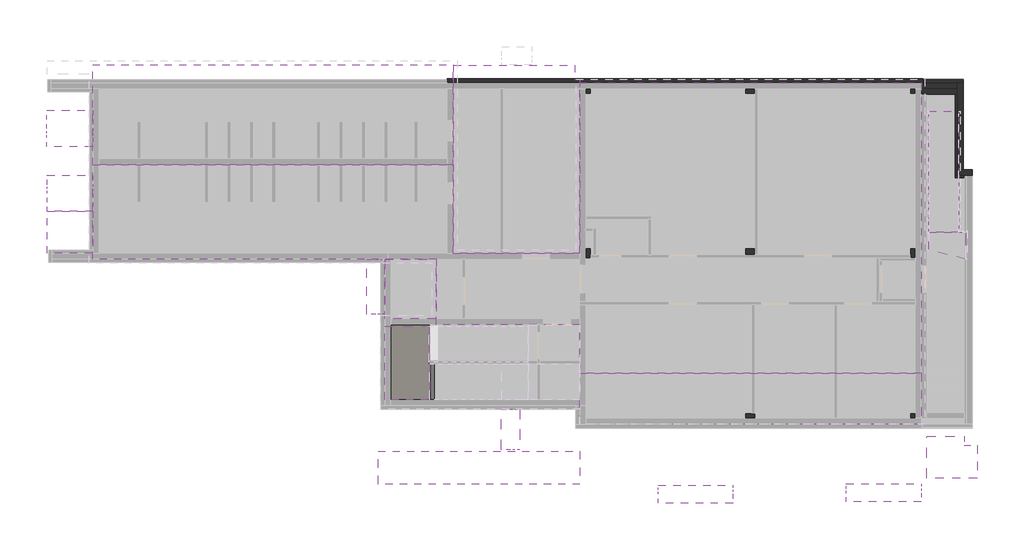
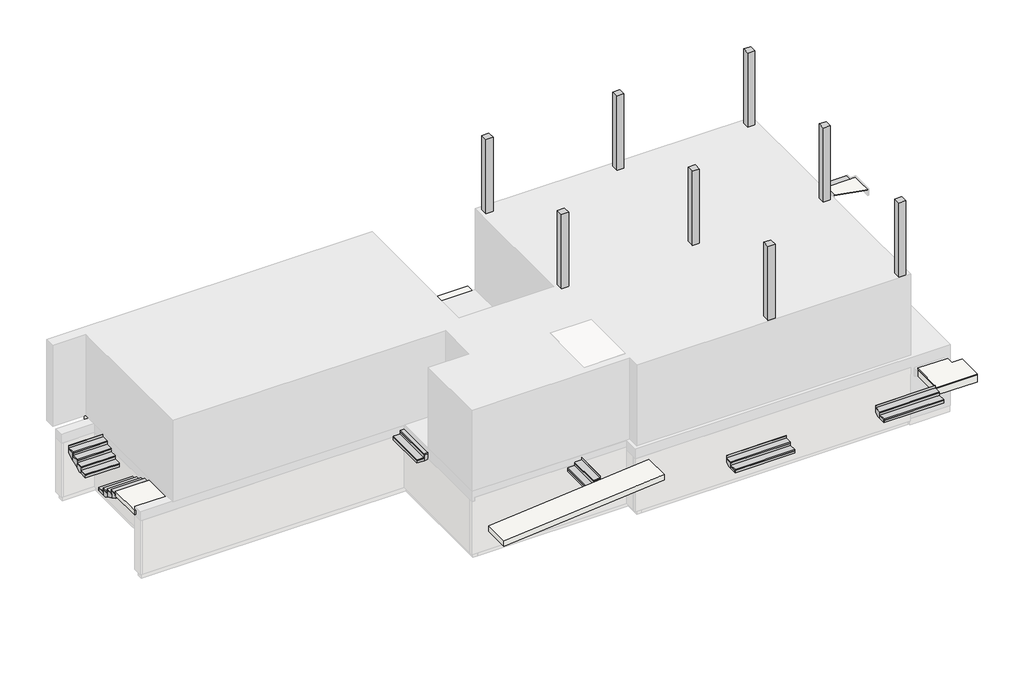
# One storey, part 2 of 3: 12 slabs, 9 columns, 8 stair flights, 8 walls.
"""IFC4 building model written with IfcOpenShell, lengths in millimetres."""

from ifc_helpers import new_model, si_unit, frame, origin, place, context, project, spatial, polyline, outline, extrude, faceted_brep, transform, mapped, element, save
from components import column_300x300_84cb1d97, slab_bca46094, stair_flight_92a90b22

model = new_model("IFC4")

# Units and contexts
model_context = context("Model", 3, world=origin())
ifc_project = project(units=[si_unit("LENGTHUNIT", "METRE", prefix="MILLI")], contexts=[model_context])

# Site, building, storey
site = spatial("IfcSite", under=ifc_project)
building = spatial("IfcBuilding", under=site)
storey = spatial("IfcBuildingStorey", under=building, Name="Этаж -1", Elevation=-2700.0)

# Columns
placement = place(None, origin())
column_300x300_shape = column_300x300_84cb1d97(model_context)
element("IfcColumn", 1, ObjectType="(CL)_Колонна _Прямоугольная : 300x300", at=placement, inside=storey, context=model_context, shape_type="MappedRepresentation", body=[
    mapped(column_300x300_shape, transform((16270.0, 10380.0, 0.0), x_axis=(1.0, 0.0, 0.0), y_axis=(0.0, 1.0, 0.0), z_axis=(0.0, 0.0, 1.0))),
])
element("IfcColumn", 2, ObjectType="(CL)_Колонна _Прямоугольная : 300x300", at=placement, inside=storey, context=model_context, shape_type="MappedRepresentation", body=[
    mapped(column_300x300_shape, transform((21769.9990554, 10380.0, 0.0), x_axis=(1.0, 0.0, 0.0), y_axis=(0.0, 1.0, 0.0), z_axis=(0.0, 0.0, 1.0))),
])
element("IfcColumn", 3, ObjectType="(CL)_Колонна _Прямоугольная : 300x300", at=placement, inside=storey, context=model_context, shape_type="MappedRepresentation", body=[
    mapped(column_300x300_shape, transform((27269.9990554, 10380.0, 0.0), x_axis=(1.0, 0.0, 0.0), y_axis=(0.0, 1.0, 0.0), z_axis=(0.0, 0.0, 1.0))),
])
element("IfcColumn", 4, ObjectType="(CL)_Колонна _Прямоугольная : 300x300", at=placement, inside=storey, context=model_context, shape_type="MappedRepresentation", body=[
    mapped(column_300x300_shape, transform((21769.9990554, 4880.0, 0.0), x_axis=(1.0, 0.0, 0.0), y_axis=(0.0, 1.0, 0.0), z_axis=(0.0, 0.0, 1.0))),
])
element("IfcColumn", 5, ObjectType="(CL)_Колонна _Прямоугольная : 300x300", at=placement, inside=storey, context=model_context, shape_type="MappedRepresentation", body=[
    mapped(column_300x300_shape, transform((16270.0, 4880.0, 0.0), x_axis=(1.0, 0.0, 0.0), y_axis=(0.0, 1.0, 0.0), z_axis=(0.0, 0.0, 1.0))),
])
element("IfcColumn", 6, ObjectType="(CL)_Колонна _Прямоугольная : 300x300", at=placement, inside=storey, context=model_context, shape_type="MappedRepresentation", body=[
    mapped(column_300x300_shape, transform((27269.9990554, -620.0, 0.0), x_axis=(1.0, 0.0, 0.0), y_axis=(0.0, 1.0, 0.0), z_axis=(0.0, 0.0, 1.0))),
])
element("IfcColumn", 7, ObjectType="(CL)_Колонна _Прямоугольная : 300x300", at=placement, inside=storey, context=model_context, shape_type="MappedRepresentation", body=[
    mapped(column_300x300_shape, transform((21769.9990554, -620.0, 0.0), x_axis=(1.0, 0.0, 0.0), y_axis=(0.0, 1.0, 0.0), z_axis=(0.0, 0.0, 1.0))),
])
element("IfcColumn", 8, ObjectType="(CL)_Колонна _Прямоугольная : 300x300", at=placement, inside=storey, context=model_context, shape_type="MappedRepresentation", body=[
    mapped(column_300x300_shape, transform((21769.9990554, -620.0, 0.0), x_axis=(1.0, 0.0, 0.0), y_axis=(0.0, 1.0, 0.0), z_axis=(0.0, 0.0, 1.0))),
])
element("IfcColumn", 9, ObjectType="(CL)_Колонна _Прямоугольная : 300x300", at=placement, inside=storey, context=model_context, shape_type="MappedRepresentation", body=[
    mapped(column_300x300_shape, transform((27269.9990554, 4880.0, 0.0), x_axis=(1.0, 0.0, 0.0), y_axis=(0.0, 1.0, 0.0), z_axis=(0.0, 0.0, 1.0))),
])

# Slabs
element("IfcSlab", 10, ObjectType="(Вн).(Тип1-340)", at=placement, inside=storey, context=model_context, shape_type="SweptSolid", body=[
    extrude(outline(polyline([(11650.0, 10380.0000008), (11650.0, 8035.0), (0.0, 8035.0), (0.0, 10380.0000008), (11650.0, 10380.0000008)])), frame((0.0, 0.0, -3040.0), z_axis=(0.0, 0.0, 1.0), x_axis=(1.0, 0.0, 0.0)), (0.0, 0.0, 1.0), 340.0),
    extrude(outline(polyline([(0.0, 4880.0), (0.0, 7835.0), (11650.0, 7835.0), (11650.0, 4880.0), (0.0, 4880.0)])), frame((0.0, 0.0, -3040.0), z_axis=(0.0, 0.0, 1.0), x_axis=(1.0, 0.0, 0.0)), (0.0, 0.0, 1.0), 340.0),
    extrude(outline(polyline([(9750.291724, 2500.0), (16070.0, 2500.0), (16070.0, 0.0), (9750.291724, 0.0), (9750.291724, 2500.0)])), frame((0.0, 0.0, -3040.0), z_axis=(0.0, 0.0, 1.0), x_axis=(1.0, 0.0, 0.0)), (0.0, 0.0, 1.0), 340.0),
    extrude(outline(polyline([(16270.0, 0.0), (16270.0, 4730.0), (16420.0, 4730.0), (16420.0, 5030.0), (16270.0, 5030.0), (16270.0, 10230.0), (16420.0, 10230.0), (16420.0, 10380.0000008), (21619.9990554, 10380.0000008), (21619.9990554, 10230.0), (21919.9990554, 10230.0), (21919.9990554, 10380.0000008), (27119.9990554, 10380.0000008), (27119.9990554, 10230.0), (27269.9990554, 10230.0), (27269.9990554, 5030.0), (27119.9990554, 5030.0), (27119.9990554, 4730.0), (27269.9990554, 4730.0), (27269.9990554, -470.0), (27119.9990554, -470.0), (27119.9990554, -620.0), (21919.9990554, -620.0), (21919.9990554, -470.0), (21619.9990554, -470.0), (21619.9990554, -620.0), (16270.0, -620.0), (16270.0, 0.0)])), frame((0.0, 0.0, -3040.0), z_axis=(0.0, 0.0, 1.0), x_axis=(1.0, 0.0, 0.0)), (0.0, 0.0, 1.0), 340.0),
    extrude(outline(polyline([(16070.0, 10380.0000008), (16070.0, 4880.0), (11850.0, 4880.0), (11850.0, 10380.0000008), (16070.0, 10380.0000008)])), frame((0.0, 0.0, -3040.0), z_axis=(0.0, 0.0, 1.0), x_axis=(1.0, 0.0, 0.0)), (0.0, 0.0, 1.0), 340.0),
    extrude(outline(polyline([(9750.291724, 4680.0), (16070.0, 4680.0), (16070.0, 2700.0), (9750.291724, 2700.0), (9750.291724, 4680.0)])), frame((0.0, 0.0, -3040.0), z_axis=(0.0, 0.0, 1.0), x_axis=(1.0, 0.0, 0.0)), (0.0, 0.0, 1.0), 340.0),
])
element("IfcSlab", 11, ObjectType="(Вн)_(ЖБ-200)", at=placement, inside=storey, context=model_context, shape_type="SweptSolid", body=[
    extrude(outline(polyline([(16070.0, 10580.0), (27467.9990554, 10580.0), (27467.9990554, 880.0), (16068.0, 880.0), (16068.0, 2500.2996937), (11270.0, 2500.2996937), (11270.0, 4680.0), (-202.0, 4680.0), (-202.0, 7835.0), (11850.0, 7835.0), (11850.0, 4880.0), (16070.0, 4880.0), (16070.0, 10580.0)])), frame((0.0, 0.0, -300.0), z_axis=(0.0, 0.0, 1.0), x_axis=(1.0, 0.0, 0.0)), (0.0, 0.0, 1.0), 200.0),
])
element("IfcSlab", 12, ObjectType="(Нр)_(ЖБ-200)", at=placement, inside=storey, context=model_context, shape_type="SweptSolid", body=[
    extrude(outline(polyline([(16070.0, 10692.0056997), (16070.0, 4882.0056355), (11850.0, 4882.0056355), (11850.0, 11172.0056355), (15907.8816544, 11172.0056355), (15907.8816544, 10692.0056997), (16070.0, 10692.0056997)])), frame((0.0, 0.0, -300.0), z_axis=(0.0, 0.0, 1.0), x_axis=(1.0, 0.0, 0.0)), (0.0, 0.0, 1.0), 200.0),
])
element("IfcSlab", 13, ObjectType="(Вн)_(ЖБ-300)", at=placement, inside=storey, context=model_context, shape_type="SweptSolid", body=[
    extrude(outline(polyline([(11850.0, 11190.0), (11850.0, 7835.0), (-202.0, 7835.0), (-202.0, 11190.0), (11850.0, 11190.0)])), frame((0.0, 0.0, -400.0), z_axis=(0.0, 0.0, 1.0), x_axis=(1.0, 0.0, 0.0)), (0.0, 0.0, 1.0), 300.0),
])
element("IfcSlab", 14, ObjectType="(Нр)_(ЖБ-300)", at=placement, inside=storey, context=model_context, shape_type="SweptSolid", body=[
    extrude(outline(polyline([(27469.9990278, 880.0), (27469.9990278, -820.0), (16070.0, -820.0), (16070.0, 880.0), (27469.9990278, 880.0)])), frame((0.0, 0.0, -400.0), z_axis=(0.0, 0.0, 1.0), x_axis=(1.0, 0.0, 0.0)), (0.0, 0.0, 1.0), 300.0),
])
element("IfcSlab", 15, ObjectType="(Нр)_(ЖБ-200)", at=placement, inside=storey, context=model_context, shape_type="SweptSolid", body=[
    extrude(outline(polyline([(9550.291724, 2700.0), (9550.291724, 4680.0), (11270.0, 4680.0), (11270.0, 2700.0), (9550.291724, 2700.0)])), frame((0.0, 0.0, -300.0), z_axis=(0.0, 0.0, 1.0), x_axis=(1.0, 0.0, 0.0)), (0.0, 0.0, 1.0), 200.0),
])
element("IfcSlab", 16, ObjectType="(Нр)_(ЖБ-200)", at=placement, inside=storey, context=model_context, shape_type="SweptSolid", body=[
    extrude(outline(polyline([(-1715.9332962, 6294.9949335), (-201.9999653, 6294.9949335), (-201.9999653, 4880.0), (-1715.9332962, 4880.0), (-1715.9332962, 6294.9949335)])), frame((0.0, 0.0, -300.0), z_axis=(0.0, 0.0, 1.0), x_axis=(1.0, 0.0, 0.0)), (0.0, 0.0, 1.0), 200.0),
])
element("IfcSlab", 17, ObjectType="Толщина: 300 мм", at=placement, inside=storey, context=model_context, shape_type="SolidModel", body=[
    faceted_brep([(28904.9999881, -1242.5000006, -400.0), (27649.9990554, -1242.5000006, -400.0), (27649.9990554, -1270.8652931, -400.0), (27649.9990554, -2630.0000006, -400.0), (29349.9990554, -2630.0000006, -400.0), (29349.9990554, -1530.0000006, -400.0), (28904.9999881, -1530.0000006, -400.0), (28904.9999881, -1270.8652931, -400.0), (27649.9990554, -2630.0000006, -700.0), (29349.9990554, -2630.0000006, -700.0), (29349.9990554, -1530.0000006, -700.0), (28904.9999881, -1530.0000006, -700.0), (28904.9999881, -1242.5000006, -713.8871744), (28904.9999881, -1242.5000006, -546.875), (28904.9999881, -1270.8652931, -700.0), (27649.9990554, -1242.5000006, -546.875), (27649.9990554, -1242.5000006, -713.8871744), (27649.9990554, -1270.8652931, -700.0)], [[[0, 1, 2, 3, 4, 5, 6, 7]], [[4, 3, 8, 9]], [[5, 4, 9, 10]], [[6, 5, 10, 11]], [[12, 13, 0, 7, 6, 11, 14]], [[1, 15, 16, 17, 8, 3, 2]], [[17, 14, 11, 10, 9, 8]], [[1, 0, 13, 12, 16, 15]], [[14, 17, 16, 12]]]),
    extrude(outline(polyline([(28904.9999881, -1230.0000006), (28904.9999881, -1530.0000006), (29349.9990554, -1530.0000006), (29349.9990554, -2630.0000006), (27649.9990554, -2630.0000006), (27649.9990554, -1230.0000006), (28904.9999881, -1230.0000006)])), frame((0.0, 0.0, -400.0), z_axis=(0.0, 0.0, 1.0), x_axis=(1.0, 0.0, 0.0)), (0.0, 0.0, 1.0), 50.0),
])
element("IfcSlab", 18, ObjectType="(Нр)_(ЖБ-200_От-50)", at=placement, inside=storey, context=model_context, shape_type="SweptSolid", body=[
    extrude(outline(polyline([(-890.9443414, 9340.291724), (-305.4597214, 16070.0), (-54.51538, 16070.0), (-640.0, 9340.291724), (-890.9443414, 9340.291724)])), frame((0.0, -2820.0, 0.0), z_axis=(0.0, 1.0, 0.0), x_axis=(0.0, 0.0, 1.0)), (0.0, 0.0, 1.0), 1100.0),
])
element("IfcSlab", 19, ObjectType="Толщина 200 мм", at=placement, inside=storey, context=model_context, shape_type="SolidModel", body=[
    faceted_brep([(11050.291724, 1300.0, -1400.0), (11037.791724, 1300.0, -1400.0), (11037.791724, 2500.0, -1400.0), (10802.3815273, 2500.0, -1400.0), (9750.0, 2500.0, -1400.0), (9750.0, 0.0, -1400.0), (11003.4861641, 0.0, -1400.0), (11055.5759675, 0.0, -1400.0), (11068.0759675, 0.0, -1400.0), (11068.0759675, 1200.0, -1400.0), (11055.5759675, 1200.0, -1400.0), (11050.291724, 1200.0, -1400.0), (11050.291724, 1300.0, -1600.0), (11037.791724, 1300.0, -1600.0), (11037.791724, 1300.0, -1550.0), (11037.791724, 1300.0, -1717.7050983), (11037.791724, 2500.0, -1717.7050983), (11037.791724, 2500.0, -1550.0), (10802.3815273, 2500.0, -1600.0), (9750.0, 2500.0, -1600.0), (9750.0, 0.0, -1600.0), (11003.4861641, 0.0, -1600.0), (11055.5759675, 0.0, -1573.9550983), (11068.0759675, 0.0, -1567.7050983), (11068.0759675, 1200.0, -1567.7050983), (11055.5759675, 1200.0, -1573.9550983), (11050.291724, 1200.0, -1576.5972201), (11050.291724, 1200.0, -1600.0), (11003.4861641, 1200.0, -1600.0), (10802.3815273, 1300.0, -1600.0)], [[[0, 1, 2, 3, 4, 5, 6, 7, 8, 9, 10, 11]], [[1, 0, 12, 13, 14]], [[2, 1, 14, 13, 15, 16, 17]], [[2, 17, 16, 18, 19, 4, 3]], [[5, 4, 19, 20]], [[5, 20, 21, 22, 7, 6]], [[8, 7, 22, 23]], [[9, 8, 23, 24]], [[10, 9, 24, 25]], [[11, 10, 25, 26]], [[0, 11, 26, 27, 12]], [[27, 28, 21, 20, 19, 18, 29, 13, 12]], [[28, 27, 26]], [[29, 18, 16, 15]], [[13, 29, 15]], [[21, 28, 26, 25, 24, 23, 22]]]),
    extrude(outline(polyline([(11050.291724, 1300.0), (11050.291724, 1200.0), (11055.5759675, 1200.0), (11055.5759675, 0.0), (9750.0, 0.0), (9750.0, 2500.0), (11050.291724, 2500.0), (11050.291724, 1300.0)])), frame((0.0, 0.0, -1400.0), z_axis=(0.0, 0.0, 1.0), x_axis=(1.0, 0.0, 0.0)), (0.0, 0.0, 1.0), 50.0),
])
element("IfcSlab", 20, ObjectType="Толщина 200 мм", at=placement, inside=storey, context=model_context, shape_type="Brep", body=[
    faceted_brep([(11044.7036388, 1250.2996937, 1800.0), (11044.7036388, 2450.2996937, 1800.0), (10809.2934422, 2450.2996937, 1800.0), (9550.291724, 2450.2996937, 1800.0), (9550.291724, 0.0, 1800.0), (10990.9861641, 0.0, 1800.0), (11055.5759675, 0.0, 1800.0), (11055.5759675, 1200.0, 1800.0), (11044.7036388, 1200.0, 1800.0), (11044.7036388, 1250.2996937, 1600.0), (11044.7036388, 1250.2996937, 1482.2949017), (11044.7036388, 2450.2996937, 1482.2949017), (11044.7036388, 2450.2996937, 1650.0), (10809.2934422, 2450.2996937, 1600.0), (9550.291724, 2450.2996937, 1600.0), (9550.291724, 0.0, 1600.0), (10990.9861641, 0.0, 1600.0), (11055.5759675, 0.0, 1632.2949017), (11055.5759675, 1200.0, 1632.2949017), (11044.7036388, 1200.0, 1626.8587373), (11044.7036388, 1200.0, 1600.0), (10990.9861641, 1200.0, 1600.0), (10809.2934422, 1250.2996937, 1600.0)], [[[0, 1, 2, 3, 4, 5, 6, 7, 8]], [[1, 0, 9, 10, 11, 12]], [[1, 12, 11, 13, 14, 3, 2]], [[4, 3, 14, 15]], [[4, 15, 16, 17, 6, 5]], [[7, 6, 17, 18]], [[8, 7, 18, 19]], [[0, 8, 19, 20, 9]], [[20, 21, 16, 15, 14, 13, 22, 9]], [[22, 13, 11, 10]], [[9, 22, 10]], [[16, 21, 19, 18, 17]], [[21, 20, 19]]]),
])
slab_shape = slab_bca46094(model_context)
element("IfcSlab", 21, ObjectType="Немонолитная площадка", at=placement, inside=storey, context=model_context, shape_type="MappedRepresentation", body=[
    mapped(slab_shape, transform((0.0, 0.0, 0.0), x_axis=(1.0, 0.0, 0.0), y_axis=(0.0, 1.0, 0.0), z_axis=(0.0, 0.0, 1.0))),
])

# Stair flights
element("IfcStairFlight", 22, ObjectType="Монолитный марш плитка", at=placement, inside=storey, context=model_context, shape_type="SolidModel", body=[
    faceted_brep([(18685.0009446, -3152.5, -400.0), (18685.0009446, -3452.5, -400.0), (21185.0009446, -3452.5, -400.0), (21185.0009446, -3152.5, -400.0), (18685.0009446, -3152.5, -500.0), (18685.0009446, -3452.5, -500.0), (21185.0009446, -3452.5, -500.0), (21185.0009446, -3152.5, -500.0), (18685.0009446, -2852.5, -250.0), (18685.0009446, -3152.5, -250.0), (21185.0009446, -3152.5, -250.0), (21185.0009446, -2852.5, -250.0), (18685.0009446, -2852.5, -417.7050983), (18685.0009446, -3017.0898034, -500.0), (21185.0009446, -3017.0898034, -500.0), (21185.0009446, -2852.5, -417.7050983)], [[[0, 1, 2, 3]], [[1, 0, 4, 5]], [[2, 1, 5, 6]], [[3, 2, 6, 7]], [[8, 9, 10, 11]], [[4, 0, 9, 8, 12, 13]], [[0, 3, 10, 9]], [[3, 7, 14, 15, 11, 10]], [[8, 11, 15, 12]], [[5, 4, 13, 14, 7, 6]], [[14, 13, 12, 15]]]),
    extrude(outline(polyline([(21185.0009446, -3452.5), (21185.0009446, -3465.0), (18685.0009446, -3465.0), (18685.0009446, -3452.5), (21185.0009446, -3452.5)])), frame((0.0, 0.0, -500.0), z_axis=(0.0, 0.0, 1.0), x_axis=(1.0, 0.0, 0.0)), (0.0, 0.0, 1.0), 100.0),
    extrude(outline(polyline([(18685.0009446, -3165.0), (21185.0009446, -3165.0), (21185.0009446, -3465.0), (18685.0009446, -3465.0), (18685.0009446, -3165.0)])), frame((0.0, 0.0, -400.0), z_axis=(0.0, 0.0, 1.0), x_axis=(1.0, 0.0, 0.0)), (0.0, 0.0, 1.0), 50.0),
    extrude(outline(polyline([(21185.0009446, -3152.5), (21185.0009446, -3165.0), (18685.0009446, -3165.0), (18685.0009446, -3152.5), (21185.0009446, -3152.5)])), frame((0.0, 0.0, -400.0), z_axis=(0.0, 0.0, 1.0), x_axis=(1.0, 0.0, 0.0)), (0.0, 0.0, 1.0), 150.0),
    extrude(outline(polyline([(21185.0009446, -2852.5), (21185.0009446, -2865.0), (18685.0009446, -2865.0), (18685.0009446, -2852.5), (21185.0009446, -2852.5)])), frame((0.0, 0.0, -250.0), z_axis=(0.0, 0.0, 1.0), x_axis=(1.0, 0.0, 0.0)), (0.0, 0.0, 1.0), 150.0),
    extrude(outline(polyline([(18685.0009446, -2865.0), (21185.0009446, -2865.0), (21185.0009446, -3165.0), (18685.0009446, -3165.0), (18685.0009446, -2865.0)])), frame((0.0, 0.0, -250.0), z_axis=(0.0, 0.0, 1.0), x_axis=(1.0, 0.0, 0.0)), (0.0, 0.0, 1.0), 50.0),
])
element("IfcStairFlight", 23, ObjectType="Монолитный марш плитка", at=placement, inside=storey, context=model_context, shape_type="SolidModel", body=[
    faceted_brep([(-1738.4332962, 8754.5220346, -700.0), (-1738.4332962, 8454.5220346, -700.0), (-200.0, 8454.5220346, -700.0), (-200.0, 8754.5220346, -700.0), (-1738.4332962, 8754.5220346, -800.0), (-1738.4332962, 8454.5220346, -800.0), (-200.0, 8454.5220346, -800.0), (-200.0, 8754.5220346, -800.0), (-1738.4332962, 9054.5220346, -550.0), (-1738.4332962, 8754.5220346, -550.0), (-200.0, 8754.5220346, -550.0), (-200.0, 9054.5220346, -550.0), (-1738.4332962, 9054.5220346, -717.7050983), (-1738.4332962, 8889.9322313, -800.0), (-200.0, 8889.9322313, -800.0), (-200.0, 9054.5220346, -717.7050983), (-1738.4332962, 9354.5220346, -400.0), (-1738.4332962, 9054.5220346, -400.0), (-200.0, 9054.5220346, -400.0), (-200.0, 9354.5220346, -400.0), (-1738.4332962, 9354.5220346, -567.7050983), (-200.0, 9354.5220346, -567.7050983), (-1738.4332962, 9654.5220346, -250.0), (-1738.4332962, 9354.5220346, -250.0), (-200.0, 9354.5220346, -250.0), (-200.0, 9654.5220346, -250.0), (-1738.4332962, 9654.5220346, -417.7050983), (-200.0, 9654.5220346, -417.7050983)], [[[0, 1, 2, 3]], [[1, 0, 4, 5]], [[2, 1, 5, 6]], [[3, 2, 6, 7]], [[8, 9, 10, 11]], [[4, 0, 9, 8, 12, 13]], [[0, 3, 10, 9]], [[3, 7, 14, 15, 11, 10]], [[16, 17, 18, 19]], [[17, 16, 20, 12, 8]], [[8, 11, 18, 17]], [[19, 18, 11, 15, 21]], [[22, 23, 24, 25]], [[23, 22, 26, 20, 16]], [[16, 19, 24, 23]], [[25, 24, 19, 21, 27]], [[22, 25, 27, 26]], [[5, 4, 13, 14, 7, 6]], [[14, 13, 12, 20, 26, 27, 21, 15]]]),
    extrude(outline(polyline([(-200.0, 8454.5220346), (-200.0, 8442.0220346), (-1738.4332962, 8442.0220346), (-1738.4332962, 8454.5220346), (-200.0, 8454.5220346)])), frame((0.0, 0.0, -800.0), z_axis=(0.0, 0.0, 1.0), x_axis=(1.0, 0.0, 0.0)), (0.0, 0.0, 1.0), 100.0),
    extrude(outline(polyline([(-1738.4332962, 8742.0220346), (-200.0, 8742.0220346), (-200.0, 8442.0220346), (-1738.4332962, 8442.0220346), (-1738.4332962, 8742.0220346)])), frame((0.0, 0.0, -700.0), z_axis=(0.0, 0.0, 1.0), x_axis=(1.0, 0.0, 0.0)), (0.0, 0.0, 1.0), 50.0),
    extrude(outline(polyline([(-200.0, 8754.5220346), (-200.0, 8742.0220346), (-1738.4332962, 8742.0220346), (-1738.4332962, 8754.5220346), (-200.0, 8754.5220346)])), frame((0.0, 0.0, -700.0), z_axis=(0.0, 0.0, 1.0), x_axis=(1.0, 0.0, 0.0)), (0.0, 0.0, 1.0), 150.0),
    extrude(outline(polyline([(-1738.4332962, 9042.0220346), (-200.0, 9042.0220346), (-200.0, 8742.0220346), (-1738.4332962, 8742.0220346), (-1738.4332962, 9042.0220346)])), frame((0.0, 0.0, -550.0), z_axis=(0.0, 0.0, 1.0), x_axis=(1.0, 0.0, 0.0)), (0.0, 0.0, 1.0), 50.0),
    extrude(outline(polyline([(-200.0, 9054.5220346), (-200.0, 9042.0220346), (-1738.4332962, 9042.0220346), (-1738.4332962, 9054.5220346), (-200.0, 9054.5220346)])), frame((0.0, 0.0, -550.0), z_axis=(0.0, 0.0, 1.0), x_axis=(1.0, 0.0, 0.0)), (0.0, 0.0, 1.0), 150.0),
    extrude(outline(polyline([(-1738.4332962, 9342.0220346), (-200.0, 9342.0220346), (-200.0, 9042.0220346), (-1738.4332962, 9042.0220346), (-1738.4332962, 9342.0220346)])), frame((0.0, 0.0, -400.0), z_axis=(0.0, 0.0, 1.0), x_axis=(1.0, 0.0, 0.0)), (0.0, 0.0, 1.0), 50.0),
    extrude(outline(polyline([(-200.0, 9354.5220346), (-200.0, 9342.0220346), (-1738.4332962, 9342.0220346), (-1738.4332962, 9354.5220346), (-200.0, 9354.5220346)])), frame((0.0, 0.0, -400.0), z_axis=(0.0, 0.0, 1.0), x_axis=(1.0, 0.0, 0.0)), (0.0, 0.0, 1.0), 150.0),
    extrude(outline(polyline([(-200.0, 9654.5220346), (-200.0, 9642.0220346), (-1738.4332962, 9642.0220346), (-1738.4332962, 9654.5220346), (-200.0, 9654.5220346)])), frame((0.0, 0.0, -250.0), z_axis=(0.0, 0.0, 1.0), x_axis=(1.0, 0.0, 0.0)), (0.0, 0.0, 1.0), 150.0),
    extrude(outline(polyline([(-1738.4332962, 9642.0220346), (-200.0, 9642.0220346), (-200.0, 9342.0220346), (-1738.4332962, 9342.0220346), (-1738.4332962, 9642.0220346)])), frame((0.0, 0.0, -250.0), z_axis=(0.0, 0.0, 1.0), x_axis=(1.0, 0.0, 0.0)), (0.0, 0.0, 1.0), 50.0),
])
element("IfcStairFlight", 24, ObjectType="Монолитный марш плитка", at=placement, inside=storey, context=model_context, shape_type="SolidModel", body=[
    faceted_brep([(-200.0, 7182.4949335, -700.0), (-200.0, 7482.4949335, -700.0), (-1715.9332962, 7482.4949335, -700.0), (-1715.9332962, 7182.4949335, -700.0), (-200.0, 7182.4949335, -800.0), (-200.0, 7482.4949335, -800.0), (-1715.9332962, 7482.4949335, -800.0), (-1715.9332962, 7182.4949335, -800.0), (-200.0, 6882.4949335, -550.0), (-200.0, 7182.4949335, -550.0), (-1715.9332962, 7182.4949335, -550.0), (-1715.9332962, 6882.4949335, -550.0), (-200.0, 6882.4949335, -717.7050983), (-200.0, 7047.0847368, -800.0), (-1715.9332962, 7047.0847368, -800.0), (-1715.9332962, 6882.4949335, -717.7050983), (-200.0, 6582.4949335, -400.0), (-200.0, 6882.4949335, -400.0), (-1715.9332962, 6882.4949335, -400.0), (-1715.9332962, 6582.4949335, -400.0), (-200.0, 6582.4949335, -567.7050983), (-1715.9332962, 6582.4949335, -567.7050983), (-200.0, 6282.4949335, -250.0), (-200.0, 6582.4949335, -250.0), (-1715.9332962, 6582.4949335, -250.0), (-1715.9332962, 6282.4949335, -250.0), (-200.0, 6282.4949335, -417.7050983), (-1715.9332962, 6282.4949335, -417.7050983)], [[[0, 1, 2, 3]], [[1, 0, 4, 5]], [[2, 1, 5, 6]], [[3, 2, 6, 7]], [[8, 9, 10, 11]], [[4, 0, 9, 8, 12, 13]], [[0, 3, 10, 9]], [[3, 7, 14, 15, 11, 10]], [[16, 17, 18, 19]], [[17, 16, 20, 12, 8]], [[8, 11, 18, 17]], [[19, 18, 11, 15, 21]], [[22, 23, 24, 25]], [[23, 22, 26, 20, 16]], [[16, 19, 24, 23]], [[25, 24, 19, 21, 27]], [[22, 25, 27, 26]], [[5, 4, 13, 14, 7, 6]], [[14, 13, 12, 20, 26, 27, 21, 15]]]),
    extrude(outline(polyline([(-1715.9332962, 7482.4949335), (-1715.9332962, 7494.9949335), (-200.0, 7494.9949335), (-200.0, 7482.4949335), (-1715.9332962, 7482.4949335)])), frame((0.0, 0.0, -800.0), z_axis=(0.0, 0.0, 1.0), x_axis=(1.0, 0.0, 0.0)), (0.0, 0.0, 1.0), 100.0),
    extrude(outline(polyline([(-200.0, 7194.9949335), (-1715.9332962, 7194.9949335), (-1715.9332962, 7494.9949335), (-200.0, 7494.9949335), (-200.0, 7194.9949335)])), frame((0.0, 0.0, -700.0), z_axis=(0.0, 0.0, 1.0), x_axis=(1.0, 0.0, 0.0)), (0.0, 0.0, 1.0), 50.0),
    extrude(outline(polyline([(-1715.9332962, 7182.4949335), (-1715.9332962, 7194.9949335), (-200.0, 7194.9949335), (-200.0, 7182.4949335), (-1715.9332962, 7182.4949335)])), frame((0.0, 0.0, -700.0), z_axis=(0.0, 0.0, 1.0), x_axis=(1.0, 0.0, 0.0)), (0.0, 0.0, 1.0), 150.0),
    extrude(outline(polyline([(-200.0, 6894.9949335), (-1715.9332962, 6894.9949335), (-1715.9332962, 7194.9949335), (-200.0, 7194.9949335), (-200.0, 6894.9949335)])), frame((0.0, 0.0, -550.0), z_axis=(0.0, 0.0, 1.0), x_axis=(1.0, 0.0, 0.0)), (0.0, 0.0, 1.0), 50.0),
    extrude(outline(polyline([(-1715.9332962, 6882.4949335), (-1715.9332962, 6894.9949335), (-200.0, 6894.9949335), (-200.0, 6882.4949335), (-1715.9332962, 6882.4949335)])), frame((0.0, 0.0, -550.0), z_axis=(0.0, 0.0, 1.0), x_axis=(1.0, 0.0, 0.0)), (0.0, 0.0, 1.0), 150.0),
    extrude(outline(polyline([(-200.0, 6594.9949335), (-1715.9332962, 6594.9949335), (-1715.9332962, 6894.9949335), (-200.0, 6894.9949335), (-200.0, 6594.9949335)])), frame((0.0, 0.0, -400.0), z_axis=(0.0, 0.0, 1.0), x_axis=(1.0, 0.0, 0.0)), (0.0, 0.0, 1.0), 50.0),
    extrude(outline(polyline([(-1715.9332962, 6582.4949335), (-1715.9332962, 6594.9949335), (-200.0, 6594.9949335), (-200.0, 6582.4949335), (-1715.9332962, 6582.4949335)])), frame((0.0, 0.0, -400.0), z_axis=(0.0, 0.0, 1.0), x_axis=(1.0, 0.0, 0.0)), (0.0, 0.0, 1.0), 150.0),
    extrude(outline(polyline([(-1715.9332962, 6282.4949335), (-1715.9332962, 6294.9949335), (-200.0, 6294.9949335), (-200.0, 6282.4949335), (-1715.9332962, 6282.4949335)])), frame((0.0, 0.0, -250.0), z_axis=(0.0, 0.0, 1.0), x_axis=(1.0, 0.0, 0.0)), (0.0, 0.0, 1.0), 150.0),
    extrude(outline(polyline([(-200.0, 6294.9949335), (-1715.9332962, 6294.9949335), (-1715.9332962, 6594.9949335), (-200.0, 6594.9949335), (-200.0, 6294.9949335)])), frame((0.0, 0.0, -250.0), z_axis=(0.0, 0.0, 1.0), x_axis=(1.0, 0.0, 0.0)), (0.0, 0.0, 1.0), 50.0),
])
element("IfcStairFlight", 25, ObjectType="Монолитный марш плитка", at=placement, inside=storey, context=model_context, shape_type="SolidModel", body=[
    faceted_brep([(9262.791724, 4680.0, -400.0), (8962.791724, 4680.0, -400.0), (8962.791724, 2855.0, -400.0), (9262.791724, 2855.0, -400.0), (9262.791724, 4680.0, -500.0), (8962.791724, 4680.0, -500.0), (8962.791724, 2855.0, -500.0), (9262.791724, 2855.0, -500.0), (9562.791724, 4680.0, -250.0), (9262.791724, 4680.0, -250.0), (9262.791724, 2855.0, -250.0), (9562.791724, 2855.0, -250.0), (9562.791724, 4680.0, -417.7050983), (9398.2019206, 4680.0, -500.0), (9398.2019206, 2855.0, -500.0), (9562.791724, 2855.0, -417.7050983)], [[[0, 1, 2, 3]], [[1, 0, 4, 5]], [[2, 1, 5, 6]], [[3, 2, 6, 7]], [[8, 9, 10, 11]], [[4, 0, 9, 8, 12, 13]], [[0, 3, 10, 9]], [[3, 7, 14, 15, 11, 10]], [[8, 11, 15, 12]], [[5, 4, 13, 14, 7, 6]], [[14, 13, 12, 15]]]),
    extrude(outline(polyline([(8962.791724, 2855.0), (8950.291724, 2855.0), (8950.291724, 4680.0), (8962.791724, 4680.0), (8962.791724, 2855.0)])), frame((0.0, 0.0, -500.0), z_axis=(0.0, 0.0, 1.0), x_axis=(1.0, 0.0, 0.0)), (0.0, 0.0, 1.0), 100.0),
    extrude(outline(polyline([(9250.291724, 4680.0), (9250.291724, 2855.0), (8950.291724, 2855.0), (8950.291724, 4680.0), (9250.291724, 4680.0)])), frame((0.0, 0.0, -400.0), z_axis=(0.0, 0.0, 1.0), x_axis=(1.0, 0.0, 0.0)), (0.0, 0.0, 1.0), 50.0),
    extrude(outline(polyline([(9262.791724, 2855.0), (9250.291724, 2855.0), (9250.291724, 4680.0), (9262.791724, 4680.0), (9262.791724, 2855.0)])), frame((0.0, 0.0, -400.0), z_axis=(0.0, 0.0, 1.0), x_axis=(1.0, 0.0, 0.0)), (0.0, 0.0, 1.0), 150.0),
    extrude(outline(polyline([(9562.791724, 2855.0), (9550.291724, 2855.0), (9550.291724, 4680.0), (9562.791724, 4680.0), (9562.791724, 2855.0)])), frame((0.0, 0.0, -250.0), z_axis=(0.0, 0.0, 1.0), x_axis=(1.0, 0.0, 0.0)), (0.0, 0.0, 1.0), 150.0),
    extrude(outline(polyline([(9550.291724, 4680.0), (9550.291724, 2855.0), (9250.291724, 2855.0), (9250.291724, 4680.0), (9550.291724, 4680.0)])), frame((0.0, 0.0, -250.0), z_axis=(0.0, 0.0, 1.0), x_axis=(1.0, 0.0, 0.0)), (0.0, 0.0, 1.0), 50.0),
])
element("IfcStairFlight", 26, ObjectType="Монолитный марш плитка", at=placement, inside=storey, context=model_context, shape_type="SolidModel", body=[
    faceted_brep([(24969.9990554, -3107.5, -400.0), (24969.9990554, -3407.5, -400.0), (27469.9990554, -3407.5, -400.0), (27469.9990554, -3107.5, -400.0), (24969.9990554, -3107.5, -500.0), (24969.9990554, -3407.5, -500.0), (27469.9990554, -3407.5, -500.0), (27469.9990554, -3107.5, -500.0), (24969.9990554, -2807.5, -250.0), (24969.9990554, -3107.5, -250.0), (27469.9990554, -3107.5, -250.0), (27469.9990554, -2807.5, -250.0), (24969.9990554, -2807.5, -417.7050983), (24969.9990554, -2972.0898034, -500.0), (27469.9990554, -2972.0898034, -500.0), (27469.9990554, -2807.5, -417.7050983)], [[[0, 1, 2, 3]], [[1, 0, 4, 5]], [[2, 1, 5, 6]], [[3, 2, 6, 7]], [[8, 9, 10, 11]], [[4, 0, 9, 8, 12, 13]], [[0, 3, 10, 9]], [[3, 7, 14, 15, 11, 10]], [[8, 11, 15, 12]], [[5, 4, 13, 14, 7, 6]], [[14, 13, 12, 15]]]),
    extrude(outline(polyline([(27469.9990554, -3407.5), (27469.9990554, -3420.0), (24969.9990554, -3420.0), (24969.9990554, -3407.5), (27469.9990554, -3407.5)])), frame((0.0, 0.0, -500.0), z_axis=(0.0, 0.0, 1.0), x_axis=(1.0, 0.0, 0.0)), (0.0, 0.0, 1.0), 100.0),
    extrude(outline(polyline([(24969.9990554, -3120.0), (27469.9990554, -3120.0), (27469.9990554, -3420.0), (24969.9990554, -3420.0), (24969.9990554, -3120.0)])), frame((0.0, 0.0, -400.0), z_axis=(0.0, 0.0, 1.0), x_axis=(1.0, 0.0, 0.0)), (0.0, 0.0, 1.0), 50.0),
    extrude(outline(polyline([(27469.9990554, -3107.5), (27469.9990554, -3120.0), (24969.9990554, -3120.0), (24969.9990554, -3107.5), (27469.9990554, -3107.5)])), frame((0.0, 0.0, -400.0), z_axis=(0.0, 0.0, 1.0), x_axis=(1.0, 0.0, 0.0)), (0.0, 0.0, 1.0), 150.0),
    extrude(outline(polyline([(27469.9990554, -2807.5), (27469.9990554, -2820.0), (24969.9990554, -2820.0), (24969.9990554, -2807.5), (27469.9990554, -2807.5)])), frame((0.0, 0.0, -250.0), z_axis=(0.0, 0.0, 1.0), x_axis=(1.0, 0.0, 0.0)), (0.0, 0.0, 1.0), 150.0),
    extrude(outline(polyline([(24969.9990554, -2820.0), (27469.9990554, -2820.0), (27469.9990554, -3120.0), (24969.9990554, -3120.0), (24969.9990554, -2820.0)])), frame((0.0, 0.0, -250.0), z_axis=(0.0, 0.0, 1.0), x_axis=(1.0, 0.0, 0.0)), (0.0, 0.0, 1.0), 50.0),
])
element("IfcStairFlight", 27, ObjectType="Монолитный марш плитка", at=placement, inside=storey, context=model_context, shape_type="SolidModel", body=[
    faceted_brep([(13762.4990554, -320.0, -400.0), (13462.4990554, -320.0, -400.0), (13462.4990554, -1675.0, -400.0), (13762.4990554, -1675.0, -400.0), (13762.4990554, -320.0, -500.0), (13462.4990554, -320.0, -500.0), (13462.4990554, -1675.0, -500.0), (13762.4990554, -1675.0, -500.0), (14062.4990554, -320.0, -250.0), (13762.4990554, -320.0, -250.0), (13762.4990554, -1675.0, -250.0), (14062.4990554, -1675.0, -250.0), (14062.4990554, -320.0, -417.7050983), (13897.909252, -320.0, -500.0), (13897.909252, -1675.0, -500.0), (14062.4990554, -1675.0, -417.7050983)], [[[0, 1, 2, 3]], [[1, 0, 4, 5]], [[2, 1, 5, 6]], [[3, 2, 6, 7]], [[8, 9, 10, 11]], [[4, 0, 9, 8, 12, 13]], [[0, 3, 10, 9]], [[3, 7, 14, 15, 11, 10]], [[8, 11, 15, 12]], [[5, 4, 13, 14, 7, 6]], [[14, 13, 12, 15]]]),
    extrude(outline(polyline([(13462.4990554, -1675.0), (13449.9990554, -1675.0), (13449.9990554, -320.0), (13462.4990554, -320.0), (13462.4990554, -1675.0)])), frame((0.0, 0.0, -500.0), z_axis=(0.0, 0.0, 1.0), x_axis=(1.0, 0.0, 0.0)), (0.0, 0.0, 1.0), 100.0),
    extrude(outline(polyline([(13749.9990554, -320.0), (13749.9990554, -1675.0), (13449.9990554, -1675.0), (13449.9990554, -320.0), (13749.9990554, -320.0)])), frame((0.0, 0.0, -400.0), z_axis=(0.0, 0.0, 1.0), x_axis=(1.0, 0.0, 0.0)), (0.0, 0.0, 1.0), 50.0),
    extrude(outline(polyline([(13762.4990554, -1675.0), (13749.9990554, -1675.0), (13749.9990554, -320.0), (13762.4990554, -320.0), (13762.4990554, -1675.0)])), frame((0.0, 0.0, -400.0), z_axis=(0.0, 0.0, 1.0), x_axis=(1.0, 0.0, 0.0)), (0.0, 0.0, 1.0), 150.0),
    extrude(outline(polyline([(14062.4990554, -1675.0), (14049.9990554, -1675.0), (14049.9990554, -320.0), (14062.4990554, -320.0), (14062.4990554, -1675.0)])), frame((0.0, 0.0, -250.0), z_axis=(0.0, 0.0, 1.0), x_axis=(1.0, 0.0, 0.0)), (0.0, 0.0, 1.0), 150.0),
    extrude(outline(polyline([(14049.9990554, -320.0), (14049.9990554, -1675.0), (13749.9990554, -1675.0), (13749.9990554, -320.0), (14049.9990554, -320.0)])), frame((0.0, 0.0, -250.0), z_axis=(0.0, 0.0, 1.0), x_axis=(1.0, 0.0, 0.0)), (0.0, 0.0, 1.0), 50.0),
])
element("IfcStairFlight", 28, ObjectType="Монолитный марш отд.", at=placement, inside=storey, context=model_context, shape_type="SolidModel", body=[
    faceted_brep([(11368.0759675, 1200.0, -1250.0), (11068.0759675, 1200.0, -1250.0), (11068.0759675, 0.0, -1250.0), (11368.0759675, 0.0, -1250.0), (11368.0759675, 1200.0, -1417.7050983), (11068.0759675, 1200.0, -1567.7050983), (11068.0759675, 1200.0, -1400.0), (11068.0759675, 0.0, -1567.7050983), (11068.0759675, 0.0, -1400.0), (11368.0759675, 0.0, -1417.7050983), (11668.0759675, 1200.0, -1100.0), (11368.0759675, 1200.0, -1100.0), (11368.0759675, 0.0, -1100.0), (11668.0759675, 0.0, -1100.0), (11668.0759675, 1200.0, -1267.7050983), (11668.0759675, 0.0, -1267.7050983), (11968.0759675, 1200.0, -950.0), (11668.0759675, 1200.0, -950.0), (11668.0759675, 0.0, -950.0), (11968.0759675, 0.0, -950.0), (11968.0759675, 1200.0, -1117.7050983), (11968.0759675, 0.0, -1117.7050983), (12268.0759675, 1200.0, -800.0), (11968.0759675, 1200.0, -800.0), (11968.0759675, 0.0, -800.0), (12268.0759675, 0.0, -800.0), (12268.0759675, 1200.0, -967.7050983), (12268.0759675, 0.0, -967.7050983), (12568.0759675, 1200.0, -650.0), (12268.0759675, 1200.0, -650.0), (12268.0759675, 0.0, -650.0), (12568.0759675, 0.0, -650.0), (12568.0759675, 1200.0, -817.7050983), (12568.0759675, 0.0, -817.7050983), (12868.0759675, 1200.0, -500.0), (12568.0759675, 1200.0, -500.0), (12568.0759675, 0.0, -500.0), (12868.0759675, 0.0, -500.0), (12868.0759675, 1200.0, -667.7050983), (12868.0759675, 0.0, -667.7050983), (13168.0759675, 1200.0, -350.0), (12868.0759675, 1200.0, -350.0), (12868.0759675, 0.0, -350.0), (13168.0759675, 0.0, -350.0), (13168.0759675, 1200.0, -517.7050983), (13168.0759675, 0.0, -517.7050983), (13168.0759675, 1200.0, -200.0), (13168.0759675, 0.0, -200.0), (13455.5759675, 0.0, -200.0), (13468.0759675, 0.0, -200.0), (13468.0759675, 1200.0, -200.0), (13455.5759675, 1200.0, -200.0), (13468.0759675, 1200.0, -367.7050983), (13455.5759675, 1200.0, -373.9550983), (13455.5759675, 0.0, -373.9550983), (13468.0759675, 0.0, -367.7050983)], [[[0, 1, 2, 3]], [[1, 0, 4, 5, 6]], [[2, 1, 6, 5, 7, 8]], [[3, 2, 8, 7, 9]], [[10, 11, 12, 13]], [[11, 10, 14, 4, 0]], [[12, 11, 0, 3]], [[13, 12, 3, 9, 15]], [[16, 17, 18, 19]], [[17, 16, 20, 14, 10]], [[18, 17, 10, 13]], [[19, 18, 13, 15, 21]], [[22, 23, 24, 25]], [[23, 22, 26, 20, 16]], [[24, 23, 16, 19]], [[25, 24, 19, 21, 27]], [[28, 29, 30, 31]], [[29, 28, 32, 26, 22]], [[30, 29, 22, 25]], [[31, 30, 25, 27, 33]], [[34, 35, 36, 37]], [[35, 34, 38, 32, 28]], [[36, 35, 28, 31]], [[37, 36, 31, 33, 39]], [[40, 41, 42, 43]], [[41, 40, 44, 38, 34]], [[42, 41, 34, 37]], [[43, 42, 37, 39, 45]], [[46, 47, 48, 49, 50, 51]], [[40, 46, 51, 50, 52, 53, 44]], [[47, 46, 40, 43]], [[47, 43, 45, 54, 55, 49, 48]], [[50, 49, 55, 52]], [[5, 4, 14, 20, 26, 32, 38, 44, 53, 52, 55, 54, 45, 39, 33, 27, 21, 15, 9, 7]]]),
    extrude(outline(polyline([(11068.0759675, 0.0), (11055.5759675, 0.0), (11055.5759675, 1200.0), (11068.0759675, 1200.0), (11068.0759675, 0.0)])), frame((0.0, 0.0, -1400.0), z_axis=(0.0, 0.0, 1.0), x_axis=(1.0, 0.0, 0.0)), (0.0, 0.0, 1.0), 150.0),
    extrude(outline(polyline([(11355.5759675, 1200.0), (11355.5759675, 0.0), (11055.5759675, 0.0), (11055.5759675, 1200.0), (11355.5759675, 1200.0)])), frame((0.0, 0.0, -1250.0), z_axis=(0.0, 0.0, 1.0), x_axis=(1.0, 0.0, 0.0)), (0.0, 0.0, 1.0), 50.0),
    extrude(outline(polyline([(11368.0759675, 0.0), (11355.5759675, 0.0), (11355.5759675, 1200.0), (11368.0759675, 1200.0), (11368.0759675, 0.0)])), frame((0.0, 0.0, -1250.0), z_axis=(0.0, 0.0, 1.0), x_axis=(1.0, 0.0, 0.0)), (0.0, 0.0, 1.0), 150.0),
    extrude(outline(polyline([(11655.5759675, 1200.0), (11655.5759675, 0.0), (11355.5759675, 0.0), (11355.5759675, 1200.0), (11655.5759675, 1200.0)])), frame((0.0, 0.0, -1100.0), z_axis=(0.0, 0.0, 1.0), x_axis=(1.0, 0.0, 0.0)), (0.0, 0.0, 1.0), 50.0),
    extrude(outline(polyline([(11668.0759675, 0.0), (11655.5759675, 0.0), (11655.5759675, 1200.0), (11668.0759675, 1200.0), (11668.0759675, 0.0)])), frame((0.0, 0.0, -1100.0), z_axis=(0.0, 0.0, 1.0), x_axis=(1.0, 0.0, 0.0)), (0.0, 0.0, 1.0), 150.0),
    extrude(outline(polyline([(11955.5759675, 1200.0), (11955.5759675, 0.0), (11655.5759675, 0.0), (11655.5759675, 1200.0), (11955.5759675, 1200.0)])), frame((0.0, 0.0, -950.0), z_axis=(0.0, 0.0, 1.0), x_axis=(1.0, 0.0, 0.0)), (0.0, 0.0, 1.0), 50.0),
    extrude(outline(polyline([(11968.0759675, 0.0), (11955.5759675, 0.0), (11955.5759675, 1200.0), (11968.0759675, 1200.0), (11968.0759675, 0.0)])), frame((0.0, 0.0, -950.0), z_axis=(0.0, 0.0, 1.0), x_axis=(1.0, 0.0, 0.0)), (0.0, 0.0, 1.0), 150.0),
    extrude(outline(polyline([(12255.5759675, 1200.0), (12255.5759675, 0.0), (11955.5759675, 0.0), (11955.5759675, 1200.0), (12255.5759675, 1200.0)])), frame((0.0, 0.0, -800.0), z_axis=(0.0, 0.0, 1.0), x_axis=(1.0, 0.0, 0.0)), (0.0, 0.0, 1.0), 50.0),
    extrude(outline(polyline([(12268.0759675, 0.0), (12255.5759675, 0.0), (12255.5759675, 1200.0), (12268.0759675, 1200.0), (12268.0759675, 0.0)])), frame((0.0, 0.0, -800.0), z_axis=(0.0, 0.0, 1.0), x_axis=(1.0, 0.0, 0.0)), (0.0, 0.0, 1.0), 150.0),
    extrude(outline(polyline([(12555.5759675, 1200.0), (12555.5759675, 0.0), (12255.5759675, 0.0), (12255.5759675, 1200.0), (12555.5759675, 1200.0)])), frame((0.0, 0.0, -650.0), z_axis=(0.0, 0.0, 1.0), x_axis=(1.0, 0.0, 0.0)), (0.0, 0.0, 1.0), 50.0),
    extrude(outline(polyline([(12568.0759675, 0.0), (12555.5759675, 0.0), (12555.5759675, 1200.0), (12568.0759675, 1200.0), (12568.0759675, 0.0)])), frame((0.0, 0.0, -650.0), z_axis=(0.0, 0.0, 1.0), x_axis=(1.0, 0.0, 0.0)), (0.0, 0.0, 1.0), 150.0),
    extrude(outline(polyline([(12855.5759675, 1200.0), (12855.5759675, 0.0), (12555.5759675, 0.0), (12555.5759675, 1200.0), (12855.5759675, 1200.0)])), frame((0.0, 0.0, -500.0), z_axis=(0.0, 0.0, 1.0), x_axis=(1.0, 0.0, 0.0)), (0.0, 0.0, 1.0), 50.0),
    extrude(outline(polyline([(12868.0759675, 0.0), (12855.5759675, 0.0), (12855.5759675, 1200.0), (12868.0759675, 1200.0), (12868.0759675, 0.0)])), frame((0.0, 0.0, -500.0), z_axis=(0.0, 0.0, 1.0), x_axis=(1.0, 0.0, 0.0)), (0.0, 0.0, 1.0), 150.0),
    extrude(outline(polyline([(13155.5759675, 1200.0), (13155.5759675, 0.0), (12855.5759675, 0.0), (12855.5759675, 1200.0), (13155.5759675, 1200.0)])), frame((0.0, 0.0, -350.0), z_axis=(0.0, 0.0, 1.0), x_axis=(1.0, 0.0, 0.0)), (0.0, 0.0, 1.0), 50.0),
    extrude(outline(polyline([(13168.0759675, 0.0), (13155.5759675, 0.0), (13155.5759675, 1200.0), (13168.0759675, 1200.0), (13168.0759675, 0.0)])), frame((0.0, 0.0, -350.0), z_axis=(0.0, 0.0, 1.0), x_axis=(1.0, 0.0, 0.0)), (0.0, 0.0, 1.0), 150.0),
    extrude(outline(polyline([(13468.0759675, 0.0), (13455.5759675, 0.0), (13455.5759675, 1200.0), (13468.0759675, 1200.0), (13468.0759675, 0.0)])), frame((0.0, 0.0, -200.0), z_axis=(0.0, 0.0, 1.0), x_axis=(1.0, 0.0, 0.0)), (0.0, 0.0, 1.0), 150.0),
    extrude(outline(polyline([(13455.5759675, 1200.0), (13455.5759675, 0.0), (13155.5759675, 0.0), (13155.5759675, 1200.0), (13455.5759675, 1200.0)])), frame((0.0, 0.0, -200.0), z_axis=(0.0, 0.0, 1.0), x_axis=(1.0, 0.0, 0.0)), (0.0, 0.0, 1.0), 50.0),
])
stair_flight_shape = stair_flight_92a90b22(model_context)
element("IfcStairFlight", 29, ObjectType="Проступь 30 мм, подступенок 13 мм", at=placement, inside=storey, context=model_context, shape_type="MappedRepresentation", body=[
    mapped(stair_flight_shape, transform((0.0, 0.0, 0.0), x_axis=(1.0, 0.0, 0.0), y_axis=(0.0, 1.0, 0.0), z_axis=(0.0, 0.0, 1.0))),
])

# Walls
element("IfcWall", 30, ObjectType="(Нр).(Ут-130)", at=placement, inside=storey, context=model_context, shape_type="Brep", body=[
    faceted_brep([(11650.0, 10580.0000008, -2800.0), (27527.9990554, 10580.0000008, -2800.0), (27527.9990554, 10580.0000008, -100.0), (11650.0, 10580.0000008, -100.0), (11650.0, 10710.0000008, -2800.0), (11650.0, 10710.0000008, -100.0), (27527.9990554, 10710.0000008, -100.0), (27527.9990554, 10710.0000008, -2800.0), (11650.0, 10680.0000008, -2800.0)], [[[0, 1, 2, 3]], [[4, 5, 6, 7]], [[1, 0, 8, 4, 7]], [[2, 1, 7, 6]], [[3, 2, 6, 5]], [[0, 3, 5, 4, 8]]]),
])
element("IfcWall", 31, ObjectType="(Нр).(Ут-100)", at=placement, inside=storey, context=model_context, shape_type="SweptSolid", body=[
    extrude(outline(polyline([(28870.0001713, 10580.0000008), (27504.9990554, 10580.0000008), (27504.9990554, 10680.0000008), (28870.0001713, 10680.0000008), (28870.0001713, 10580.0000008)])), frame((0.0, 0.0, -3000.0), z_axis=(0.0, 0.0, 1.0), x_axis=(1.0, 0.0, 0.0)), (0.0, 0.0, 1.0), 2355.0),
])
element("IfcWall", 32, ObjectType="(Нр).(Ут-130.От-50)", at=placement, inside=storey, context=model_context, shape_type="Brep", body=[
    faceted_brep([(28670.0001713, 10380.0, -3040.0), (27469.9990278, 10380.0, -3040.0), (27469.9990278, 10380.0, -100.0), (28670.0001713, 10380.0, -100.0), (28670.0001713, 10200.0, -3040.0), (28670.0001713, 10200.0, -100.0), (28605.0001713, 10200.0, -100.0), (27649.9990278, 10200.0, -100.0), (27469.9990278, 10200.0, -100.0), (27469.9990278, 10200.0, -3040.0), (27649.9990278, 10200.0, -3040.0), (28605.0001713, 10200.0, -3040.0)], [[[0, 1, 2, 3]], [[4, 5, 6, 7, 8, 9, 10, 11]], [[1, 0, 4, 11, 10, 9]], [[3, 2, 8, 7, 6, 5]], [[2, 1, 9, 8]], [[0, 3, 5, 4]]]),
])
element("IfcWall", 33, ObjectType="(Нр).(Ут-30.От-35)", at=placement, inside=storey, context=model_context, shape_type="Brep", body=[
    faceted_brep([(28904.9999881, 7479.9999048, -3040.0), (28670.0001713, 7479.9999048, -3040.0), (28605.0001713, 7479.9999048, -3040.0), (28605.0001713, 7479.9999048, -100.0), (28670.0001713, 7479.9999048, -100.0), (28904.9999881, 7479.9999048, -100.0), (28904.9999881, 7414.9999048, -3040.0), (28904.9999881, 7414.9999048, -100.0), (28605.0001713, 7414.9999048, -100.0), (28605.0001713, 7414.9999048, -3040.0)], [[[0, 1, 2, 3, 4, 5]], [[6, 7, 8, 9]], [[2, 1, 0, 6, 9]], [[5, 4, 3, 8, 7]], [[0, 5, 7, 6]], [[3, 2, 9, 8]]]),
])
element("IfcWall", 34, ObjectType="(Нр).(Ут-30.От-35)", at=placement, inside=storey, context=model_context, shape_type="SweptSolid", body=[
    extrude(outline(polyline([(28670.0001713, 10200.0), (28670.0001713, 7479.9999048), (28605.0001713, 7479.9999048), (28605.0001713, 10200.0), (28670.0001713, 10200.0)])), frame((0.0, 0.0, -3040.0), z_axis=(0.0, 0.0, 1.0), x_axis=(1.0, 0.0, 0.0)), (0.0, 0.0, 1.0), 2940.0),
])
element("IfcWall", 35, ObjectType="(Нр)_(ЖБ-200)", at=placement, inside=storey, context=model_context, shape_type="Brep", body=[
    faceted_brep([(28670.0001713, 10580.0000008, -3040.0), (28670.0001713, 10380.0000008, -3040.0), (28670.0001713, 7679.9999048, -3040.0), (28670.0001713, 7679.9999048, -100.0), (28670.0001713, 10380.0000008, -100.0), (28670.0001713, 10580.0000008, -100.0), (28870.0001713, 10580.0000008, -3040.0), (28870.0001713, 10580.0000008, -100.0), (28870.0001713, 7679.9999048, -100.0), (28870.0001713, 7679.9999048, -3040.0)], [[[0, 1, 2, 3, 4, 5]], [[6, 7, 8, 9]], [[2, 1, 0, 6, 9]], [[5, 4, 3, 8, 7]], [[3, 2, 9, 8]], [[0, 5, 7, 6]]]),
])
element("IfcWall", 36, ObjectType="(Нр)_(ЖБ-200)", at=placement, inside=storey, context=model_context, shape_type="Brep", body=[
    faceted_brep([(28670.0001713, 7479.9999048, -3040.0), (28969.9999881, 7479.9999048, -3040.0), (29169.9999881, 7479.9999048, -3040.0), (29169.9999881, 7479.9999048, -100.0), (28969.9999881, 7479.9999048, -100.0), (28670.0001713, 7479.9999048, -100.0), (28670.0001713, 7679.9999048, -3040.0), (28670.0001713, 7679.9999048, -100.0), (28870.0001713, 7679.9999048, -100.0), (29169.9999881, 7679.9999048, -100.0), (29169.9999881, 7679.9999048, -3040.0), (28870.0001713, 7679.9999048, -3040.0)], [[[0, 1, 2, 3, 4, 5]], [[6, 7, 8, 9, 10, 11]], [[2, 1, 0, 6, 11, 10]], [[5, 4, 3, 9, 8, 7]], [[0, 5, 7, 6]], [[3, 2, 10, 9]]]),
])
element("IfcWall", 37, ObjectType="(Нр)_(ЖБ-200)", at=placement, inside=storey, context=model_context, shape_type="Brep", body=[
    faceted_brep([(27469.9990554, 10380.0000008, -3040.0), (28670.0001713, 10380.0000008, -3040.0), (28670.0001713, 10380.0000008, -100.0), (27469.9990554, 10380.0000008, -100.0), (27469.9990554, 10380.0000008, -300.0), (27469.9990554, 10580.0000008, -3040.0), (27469.9990554, 10580.0000008, -300.0), (27469.9990554, 10580.0000008, -100.0), (28670.0001713, 10580.0000008, -100.0), (28670.0001713, 10580.0000008, -3040.0)], [[[0, 1, 2, 3, 4]], [[5, 6, 7, 8, 9]], [[1, 0, 5, 9]], [[3, 2, 8, 7]], [[0, 4, 3, 7, 6, 5]], [[2, 1, 9, 8]]]),
])

save(model, "model.ifc")
